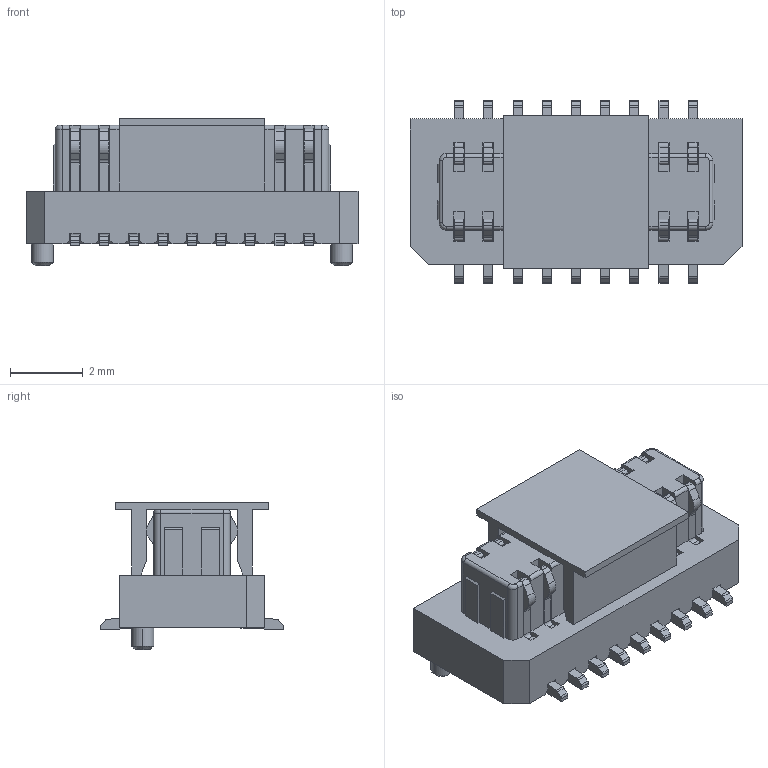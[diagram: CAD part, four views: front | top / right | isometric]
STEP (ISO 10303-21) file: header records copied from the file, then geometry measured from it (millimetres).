
FILE_DESCRIPTION(('CATIA V5 STEP Exchange'),'2;1');
FILE_NAME('F:\黄富鸿\板对板\PBB08B\公座\H3.3\带盖\HC-PBB08B-1-18-M-H3.3-XX-R-P-06 (BTB0.8 单槽 B型公座 立贴 带柱 编带+盖)-HCTL.stp','2026-01-28T08:19:29+00:00',('none'),('none'),'CATIA Version 5 Release 20 GA (IN-10)','CATIA V5 STEP AP203','none');
FILE_SCHEMA(('CONFIG_CONTROL_DESIGN'));
Length unit declared in the file: millimetre
Products named in the file (1): Part1
Bounding box: 9.1 x 5 x 4.05 mm (x, y, z)
Volume: 86 mm3; surface area: 440.4 mm2
Topology: 20 solids, 20 shells, 1021 faces, 2994 edges, 1980 vertices
Faces by surface type: plane 695, cylinder 318, cone 4, torus 4
Entity records: 31360 total; most frequent: ORIENTED_EDGE 5988, CARTESIAN_POINT 5632, DIRECTION 4308, EDGE_CURVE 2994, VECTOR 2350, LINE 2350, VERTEX_POINT 1980, AXIS2_PLACEMENT_3D 1302
